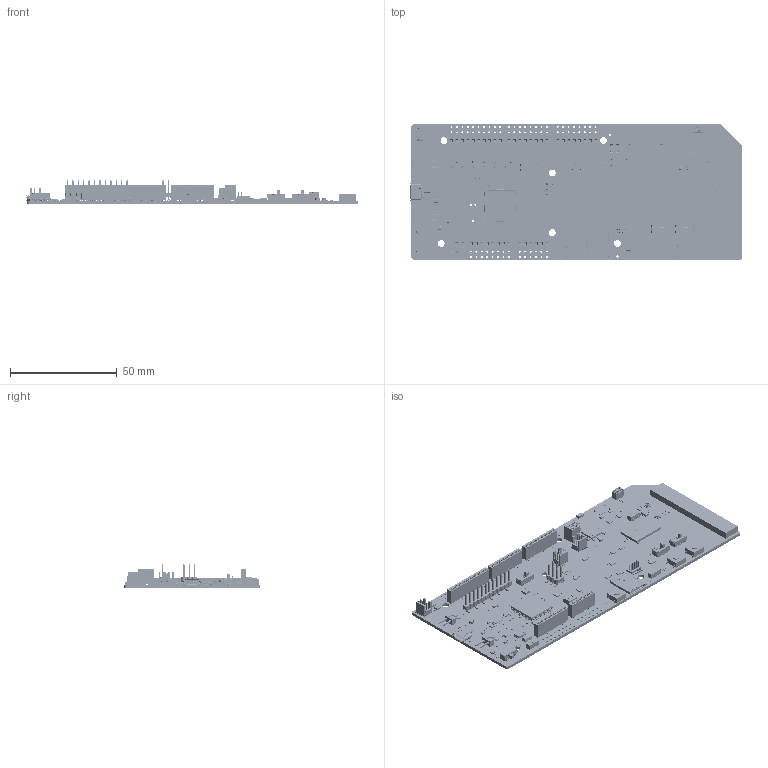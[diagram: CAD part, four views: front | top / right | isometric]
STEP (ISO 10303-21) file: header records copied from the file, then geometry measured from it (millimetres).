
FILE_DESCRIPTION(('Open CASCADE Model'),'2;1');
FILE_NAME('Open CASCADE Shape Model','2019-04-10T14:52:58',('Author'),( 'Open CASCADE'),'Open CASCADE STEP processor 6.8','Open CASCADE 6.8' ,'Unknown');
FILE_SCHEMA(('AUTOMOTIVE_DESIGN { 1 0 10303 214 1 1 1 1 }'));
Length unit declared in the file: millimetre
Products named in the file (512): PCB; Board; Open CASCADE STEP translator 6.8 1.1.1; R60; User_Library-res0402-1; R82; User_Library-res0201-1; U14; User_Library-XQFN-16-1; 6901510080; Extruded; C51; User_Library-0201(0603M)_Cap; U32; User_Library-sot23-1; R81; Q11; SW3dPS-SC70-6; Q10; 6217654144; Open_CASCADE_STEP_translator_6.8_4.1; Body; Open_CASCADE_STEP_translator_6.8_4.2.1; lead; Q9; C58; R79; CR1; RES0201; 6529694208; Mid_Body; Terminal; Open_CASCADE_STEP_translator_6.8_5.2.1; Mark; U30; 6420048496; Open_CASCADE_STEP_translator_6.8_2.1; Open_CASCADE_STEP_translator_6.8_2.2.1; ball; U29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
Assembly tree (1059 placements, depth 6):
  PCB
    Board
      Open CASCADE STEP translator 6.8 1.1.1
    R60
      User_Library-res0402-1
    R82
      User_Library-res0201-1
    U14
      User_Library-XQFN-16-1
      6901510080
        Extruded
    C51
      User_Library-0201(0603M)_Cap
    U32
      User_Library-sot23-1
    R81
      User_Library-res0201-1
    Q11
      SW3dPS-SC70-6
    Q10
      6217654144
        Open_CASCADE_STEP_translator_6.8_4.1
        Body
          Open_CASCADE_STEP_translator_6.8_4.2.1
        lead  x6
    Q9
      6217654144
        Open_CASCADE_STEP_translator_6.8_4.1
        Body
          Open_CASCADE_STEP_translator_6.8_4.2.1
        lead  x6
    C58
      User_Library-0201(0603M)_Cap
    R79
      User_Library-res0201-1
    CR1
      RES0201
      RES0201
        6529694208
          Mid_Body
          Terminal  x2
            Open_CASCADE_STEP_translator_6.8_5.2.1
          Mark
    U30
      6420048496
        Open_CASCADE_STEP_translator_6.8_2.1
        Body
          Open_CASCADE_STEP_translator_6.8_2.2.1
        ball  x4
    U29
      SW3dPS-SC70-6
    R73
      User_Library-res0201-1
    R72
      User_Library-res0201-1
    R71
      User_Library-res0201-1
    R69
      User_Library-res0201-1
    R9
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Bounding box: 155.66 x 63.5 x 11.34 mm (x, y, z)
Volume: 20363.3 mm3; surface area: 33314.4 mm2
Topology: 876 solids, 892 shells, 28052 faces, 70426 edges, 44062 vertices
Faces by surface type: plane 19116, bspline 4201, cylinder 4131, sphere 280, extrusion 250, cone 42, torus 30, revolution 2
Full cylindrical faces by diameter (mm): 0.099 x7, 0.163 x2, 0.231 x1, 0.25 x184, 0.256 x2, 0.3 x1, 0.375 x1, 0.562 x1, 0.6 x3, 0.74 x1, 0.8 x1, 0.887 x1, 0.9 x82, 0.991 x3, 1 x3, 1.75 x1, 1.78 x2, 1.8 x2, 2 x2, 2.05 x2, 2.1 x4, 3.2 x6
Entity records: 279743 total; most frequent: CARTESIAN_POINT 60380, ORIENTED_EDGE 37836, DIRECTION 35879, EDGE_CURVE 18924, VECTOR 15435, LINE 15279, VERTEX_POINT 12136, AXIS2_PLACEMENT_3D 10221
